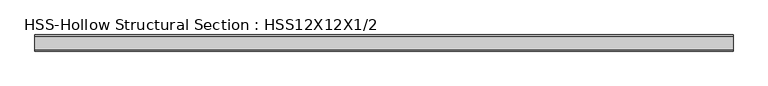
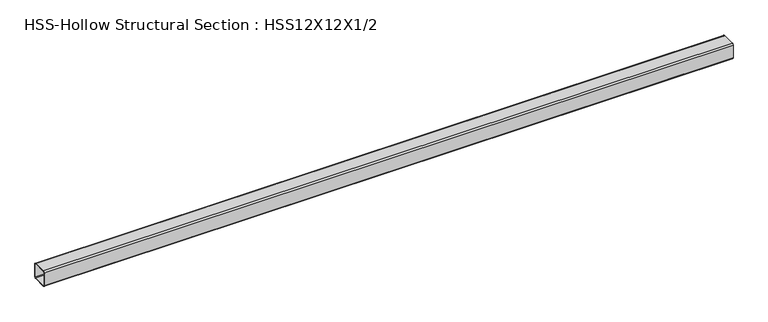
"""IFC4 building model written with IfcOpenShell, lengths in millimetres: beam geometry, HSS-Hollow Structural Section : HSS12X12X1/2."""

from ifc_helpers import new_model, si_unit, point, frame, frame_2d, origin, place, context, project, spatial, polyline, circle_curve, trimmed, segment, composite_curve, outline, extrude, source, transform, mapped, element, save


def hss_hollow_structural_section_hss12x12x1_2_ac1cf4bf(model_context):
    return source(origin(), model_context, "Body", "SweptSolid", [
        extrude(outline(composite_curve([segment(polyline([(152.4, 128.778), (152.4, -128.778)]), True, "CONTINUOUS"), segment(trimmed(circle_curve(frame_2d((128.778, -128.778)), 23.622), [point((152.4, -128.778))], [point((128.778, -152.4))], False, "CARTESIAN"), True, "CONTINUOUS"), segment(polyline([(128.778, -152.4), (-128.778, -152.4)]), True, "CONTINUOUS"), segment(trimmed(circle_curve(frame_2d((-128.778, -128.778)), 23.622), [point((-128.778, -152.4))], [point((-152.4, -128.778))], False, "CARTESIAN"), True, "CONTINUOUS"), segment(polyline([(-152.4, -128.778), (-152.4, 128.778)]), True, "CONTINUOUS"), segment(trimmed(circle_curve(frame_2d((-128.778, 128.778)), 23.622), [point((-152.4, 128.778))], [point((-128.778, 152.4))], False, "CARTESIAN"), True, "CONTINUOUS"), segment(polyline([(-128.778, 152.4), (128.778, 152.4)]), True, "CONTINUOUS"), segment(trimmed(circle_curve(frame_2d((128.778, 128.778)), 23.622), [point((128.778, 152.4))], [point((152.4, 128.778))], False, "CARTESIAN"), True, "CONTINUOUS")], self_intersect=False), holes=[composite_curve([segment(trimmed(circle_curve(frame_2d((-128.778, 128.778)), 11.811), [point((-128.778, 140.589))], [point((-140.589, 128.778))], True, "CARTESIAN"), True, "CONTINUOUS"), segment(polyline([(-140.589, 128.778), (-140.589, -128.778)]), True, "CONTINUOUS"), segment(trimmed(circle_curve(frame_2d((-128.778, -128.778)), 11.811), [point((-140.589, -128.778))], [point((-128.778, -140.589))], True, "CARTESIAN"), True, "CONTINUOUS"), segment(polyline([(-128.778, -140.589), (128.778, -140.589)]), True, "CONTINUOUS"), segment(trimmed(circle_curve(frame_2d((128.778, -128.778)), 11.811), [point((128.778, -140.589))], [point((140.589, -128.778))], True, "CARTESIAN"), True, "CONTINUOUS"), segment(polyline([(140.589, -128.778), (140.589, 128.778)]), True, "CONTINUOUS"), segment(trimmed(circle_curve(frame_2d((128.778, 128.778)), 11.811), [point((140.589, 128.778))], [point((128.778, 140.589))], True, "CARTESIAN"), True, "CONTINUOUS"), segment(polyline([(128.778, 140.589), (-128.778, 140.589)]), True, "CONTINUOUS")], self_intersect=False)]), frame((-6674.2846052, 0.0, 0.0), z_axis=(1.0, 0.0, 0.0), x_axis=(0.0, 1.0, 0.0)), (0.0, 0.0, 1.0), 13185.2516923),
    ])


if __name__ == "__main__":
    model = new_model("IFC4")
    model_context = context("Model", 3, world=origin())
    ifc_project = project(units=[si_unit("LENGTHUNIT", "METRE", prefix="MILLI")], contexts=[model_context])
    site = spatial("IfcSite", under=ifc_project)
    building = spatial("IfcBuilding", under=site)
    placement = place(None, origin())
    hss_hollow_structural_section_hss12x12x1_2_shape = hss_hollow_structural_section_hss12x12x1_2_ac1cf4bf(model_context)
    element("IfcBeam", 1, ObjectType="HSS-Hollow Structural Section : HSS12X12X1/2", at=placement, inside=building, context=model_context, shape_type="MappedRepresentation", body=[
        mapped(hss_hollow_structural_section_hss12x12x1_2_shape, transform((0.0, 0.0, 0.0), x_axis=(1.0, 0.0, 0.0), y_axis=(0.0, 1.0, 0.0), z_axis=(0.0, 0.0, 1.0))),
    ])
    save(model, "model.ifc")
